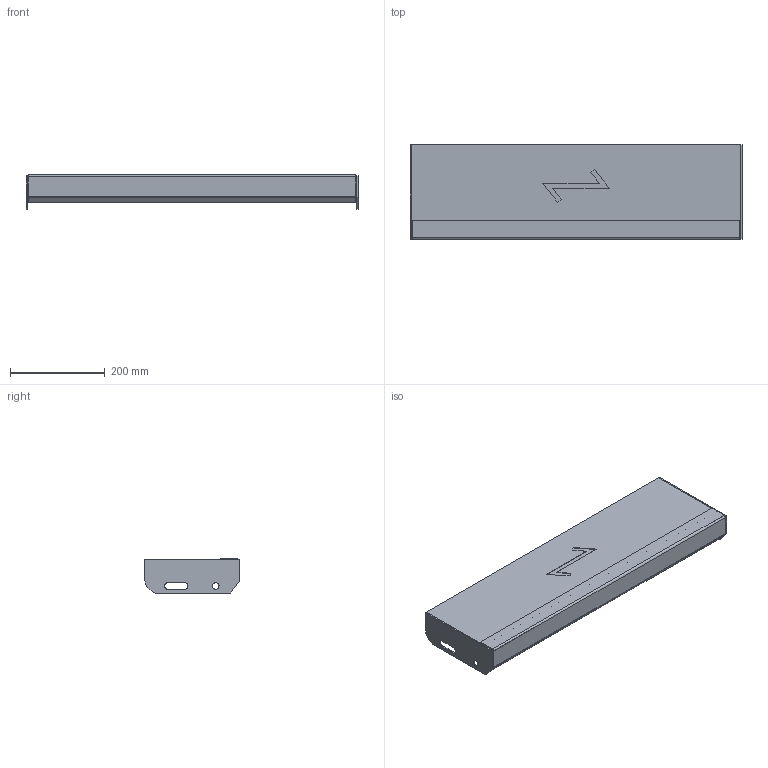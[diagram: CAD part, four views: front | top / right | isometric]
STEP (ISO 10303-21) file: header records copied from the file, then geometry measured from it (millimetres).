
FILE_DESCRIPTION (( 'STEP AP203' ), '1' );
FILE_NAME ('StegTH6-S-nya_steget-700x200.STEP', '2020-03-04T07:42:11', ( '' ), ( '' ), 'SwSTEP 2.0', 'SolidWorks 2019', '' );
FILE_SCHEMA (( 'CONFIG_CONTROL_DESIGN' ));
Length unit declared in the file: millimetre
Products named in the file (5): SW0000038700; SW0000039243; SW0000039458; SW0000038779; StegTH6-S-nya_steget-700x200
Assembly tree (5 placements, depth 3):
  StegTH6-S-nya_steget-700x200
    SW0000039458
      SW0000038779
      SW0000039243
      SW0000038700  x2
Bounding box: 700 x 200 x 72 mm (x, y, z)
Volume: 3229439.7 mm3; surface area: 479508.1 mm2
Topology: 4 solids, 4 shells, 67 faces, 158 edges, 100 vertices
Faces by surface type: plane 51, cylinder 16
Entity records: 2002 total; most frequent: DIRECTION 261, CARTESIAN_POINT 254, ORIENTED_EDGE 238, EDGE_CURVE 119, LINE 99, VECTOR 99, AXIS2_PLACEMENT_3D 81, VERTEX_POINT 74
